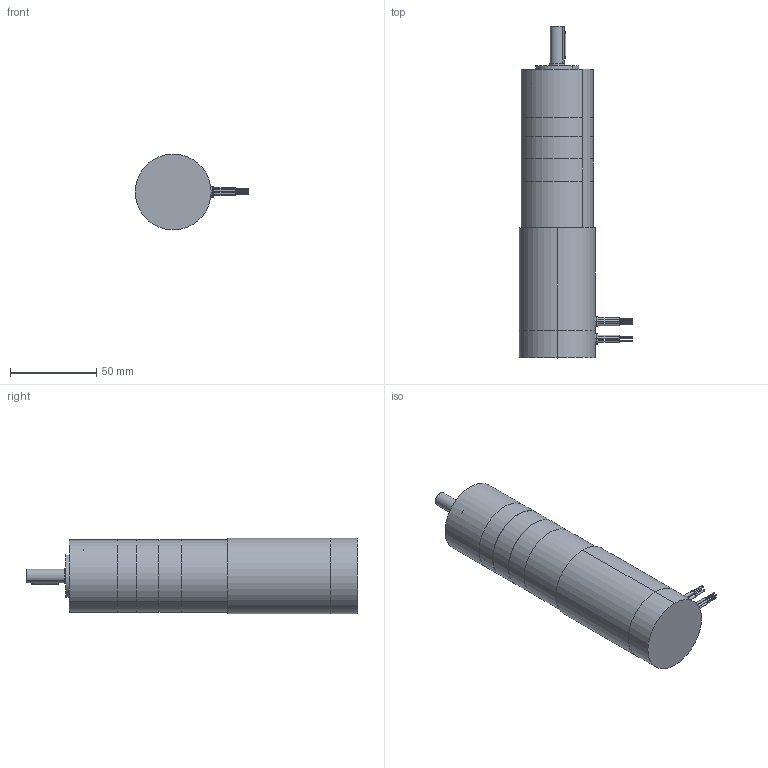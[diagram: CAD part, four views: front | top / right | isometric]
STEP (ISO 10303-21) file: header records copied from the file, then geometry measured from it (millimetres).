
FILE_DESCRIPTION (( 'STEP AP203' ), '1' );
FILE_NAME ('bl44297gp3.step', '2021-01-25T17:48:35', ( '' ), ( '' ), 'SwSTEP 2.0', 'SolidWorks 2017', '' );
FILE_SCHEMA (( 'CONFIG_CONTROL_DESIGN' ));
Length unit declared in the file: millimetre
Products named in the file (1): bl44297gp3
Bounding box: 65.82 x 192.34 x 44 mm (x, y, z)
Volume: 240663.1 mm3; surface area: 47738.6 mm2
Topology: 16 solids, 16 shells, 279 faces, 565 edges, 358 vertices
Faces by surface type: cylinder 134, plane 104, cone 37, torus 4
Entity records: 7427 total; most frequent: DIRECTION 1414, CARTESIAN_POINT 1251, ORIENTED_EDGE 1114, AXIS2_PLACEMENT_3D 581, EDGE_CURVE 557, VERTEX_POINT 358, EDGE_LOOP 337, CIRCLE 301
